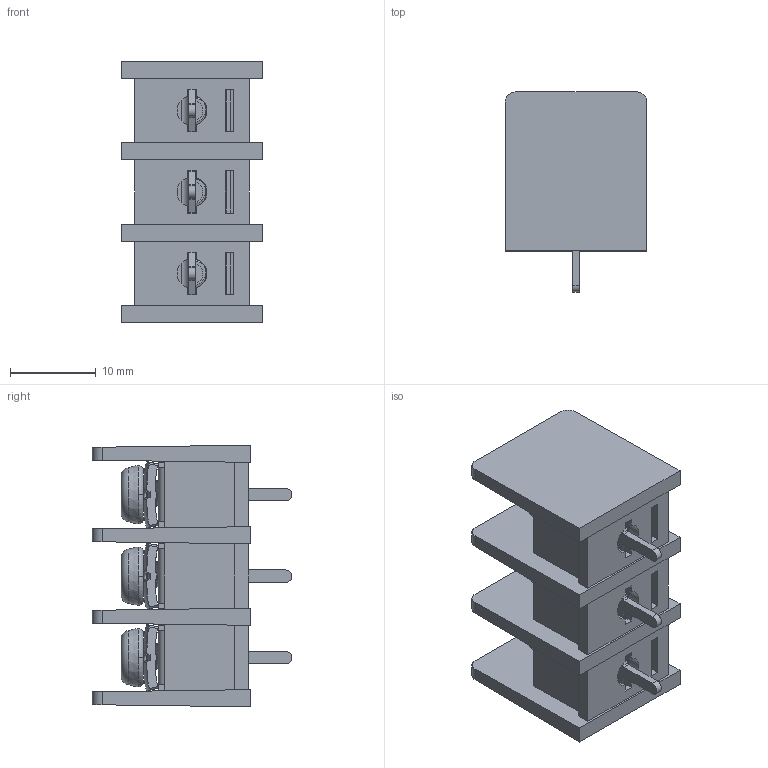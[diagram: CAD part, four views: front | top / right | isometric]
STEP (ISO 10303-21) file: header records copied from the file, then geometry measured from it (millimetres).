
FILE_DESCRIPTION((''),'2;1');
FILE_NAME('3PIN','2021-05-17T',('hanke'),(''),'CREO PARAMETRIC BY PTC INC, 2016260','CREO PARAMETRIC BY PTC INC, 2016260','');
FILE_SCHEMA(('CONFIG_CONTROL_DESIGN'));
Products named in the file (1): 3PIN
Bounding box: 16.5 x 23.3 x 30.5 mm (x, y, z)
Volume: 4052.8 mm3; surface area: 6785 mm2
Topology: 4 solids, 4 shells, 992 faces, 2952 edges, 1914 vertices
Faces by surface type: plane 603, cylinder 209, bspline 138, cone 24, torus 18
Entity records: 51268 total; most frequent: CARTESIAN_POINT 26178, ORIENTED_EDGE 5892, DIRECTION 4332, EDGE_CURVE 2946, VERTEX_POINT 1914, VECTOR 1772, LINE 1772, AXIS2_PLACEMENT_3D 1280
